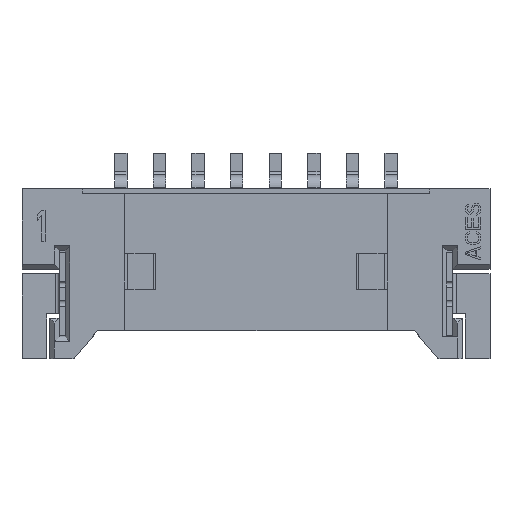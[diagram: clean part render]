
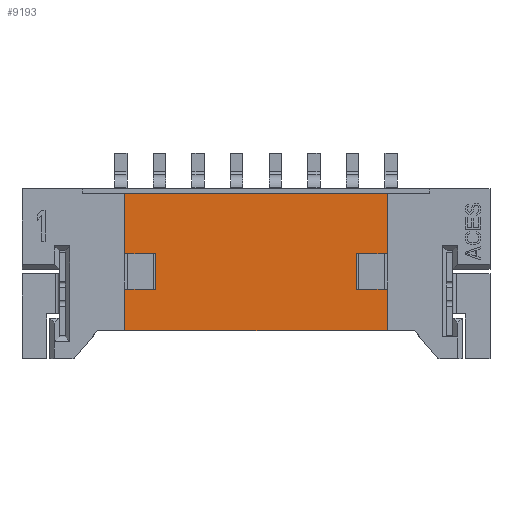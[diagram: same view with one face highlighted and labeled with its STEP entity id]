
A CAD part, top view. The second image highlights one B-rep face of the part: STEP entity #9193.
In plain terms, the highlighted planar face has unit normal (0, 0, 1).
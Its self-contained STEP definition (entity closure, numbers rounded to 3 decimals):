
#453=DIRECTION('',(0.,-1.,0.));
#454=VECTOR('',#453,1.95);
#455=CARTESIAN_POINT('',(3.325,5.35,0.048));
#456=LINE('',#455,#454);
#473=DIRECTION('',(1.,0.,0.));
#474=VECTOR('',#473,1.);
#475=CARTESIAN_POINT('',(10.825,2.25,0.048));
#476=LINE('',#475,#474);
#477=DIRECTION('',(0.,-1.,0.));
#478=VECTOR('',#477,1.35);
#479=CARTESIAN_POINT('',(11.825,2.25,0.048));
#480=LINE('',#479,#478);
#481=DIRECTION('',(-1.,0.,0.));
#482=VECTOR('',#481,8.5);
#483=CARTESIAN_POINT('',(11.825,0.9,0.048));
#484=LINE('',#483,#482);
#485=DIRECTION('',(1.,0.,0.));
#486=VECTOR('',#485,1.);
#487=CARTESIAN_POINT('',(3.325,2.25,0.048));
#488=LINE('',#487,#486);
#489=DIRECTION('',(0.,1.,0.));
#490=VECTOR('',#489,1.15);
#491=CARTESIAN_POINT('',(4.325,2.25,0.048));
#492=LINE('',#491,#490);
#493=DIRECTION('',(-1.,0.,0.));
#494=VECTOR('',#493,1.);
#495=CARTESIAN_POINT('',(4.325,3.4,0.048));
#496=LINE('',#495,#494);
#497=DIRECTION('',(1.,0.,0.));
#498=VECTOR('',#497,8.5);
#499=CARTESIAN_POINT('',(3.325,5.35,0.048));
#500=LINE('',#499,#498);
#501=DIRECTION('',(0.,-1.,0.));
#502=VECTOR('',#501,1.95);
#503=CARTESIAN_POINT('',(11.825,5.35,0.048));
#504=LINE('',#503,#502);
#505=DIRECTION('',(-1.,0.,0.));
#506=VECTOR('',#505,1.);
#507=CARTESIAN_POINT('',(11.825,3.4,0.048));
#508=LINE('',#507,#506);
#509=DIRECTION('',(0.,-1.,0.));
#510=VECTOR('',#509,1.15);
#511=CARTESIAN_POINT('',(10.825,3.4,0.048));
#512=LINE('',#511,#510);
#533=DIRECTION('',(0.,-1.,0.));
#534=VECTOR('',#533,1.35);
#535=CARTESIAN_POINT('',(3.325,2.25,0.048));
#536=LINE('',#535,#534);
#6937=CARTESIAN_POINT('',(10.825,3.4,0.048));
#6938=VERTEX_POINT('',#6937);
#6939=CARTESIAN_POINT('',(11.825,3.4,0.048));
#6940=VERTEX_POINT('',#6939);
#6957=CARTESIAN_POINT('',(3.325,0.9,0.048));
#6958=VERTEX_POINT('',#6957);
#6959=CARTESIAN_POINT('',(11.825,0.9,0.048));
#6960=VERTEX_POINT('',#6959);
#7003=CARTESIAN_POINT('',(4.325,2.25,0.048));
#7004=VERTEX_POINT('',#7003);
#7005=CARTESIAN_POINT('',(3.325,2.25,0.048));
#7006=VERTEX_POINT('',#7005);
#7007=CARTESIAN_POINT('',(4.325,3.4,0.048));
#7008=VERTEX_POINT('',#7007);
#7009=CARTESIAN_POINT('',(3.325,3.4,0.048));
#7010=VERTEX_POINT('',#7009);
#7011=CARTESIAN_POINT('',(3.325,5.35,0.048));
#7012=VERTEX_POINT('',#7011);
#7013=CARTESIAN_POINT('',(11.825,5.35,0.048));
#7014=VERTEX_POINT('',#7013);
#7019=CARTESIAN_POINT('',(10.825,2.25,0.048));
#7020=CARTESIAN_POINT('',(11.825,2.25,0.048));
#7021=VERTEX_POINT('',#7019);
#7022=VERTEX_POINT('',#7020);
#9170=CARTESIAN_POINT('',(7.575,3.125,0.048));
#9171=DIRECTION('',(0.,0.,1.));
#9172=DIRECTION('',(1.,0.,0.));
#9173=AXIS2_PLACEMENT_3D('',#9170,#9171,#9172);
#9174=PLANE('',#9173);
#9176=ORIENTED_EDGE('',*,*,#9175,.T.);
#9178=ORIENTED_EDGE('',*,*,#9177,.T.);
#9179=ORIENTED_EDGE('',*,*,#8995,.T.);
#9181=ORIENTED_EDGE('',*,*,#9180,.F.);
#9182=ORIENTED_EDGE('',*,*,#9084,.T.);
#9183=ORIENTED_EDGE('',*,*,#9100,.T.);
#9184=ORIENTED_EDGE('',*,*,#9117,.T.);
#9185=ORIENTED_EDGE('',*,*,#9131,.F.);
#9186=ORIENTED_EDGE('',*,*,#9144,.T.);
#9187=ORIENTED_EDGE('',*,*,#9163,.T.);
#9188=ORIENTED_EDGE('',*,*,#8945,.T.);
#9190=ORIENTED_EDGE('',*,*,#9189,.T.);
#9191=EDGE_LOOP('',(#9176,#9178,#9179,#9181,#9182,#9183,#9184,#9185,#9186,#9187,
#9188,#9190));
#9192=FACE_OUTER_BOUND('',#9191,.F.);
#9193=ADVANCED_FACE('',(#9192),#9174,.T.);
#8945=EDGE_CURVE('',#6940,#6938,#508,.T.);
#8995=EDGE_CURVE('',#6960,#6958,#484,.T.);
#9084=EDGE_CURVE('',#7006,#7004,#488,.T.);
#9100=EDGE_CURVE('',#7004,#7008,#492,.T.);
#9117=EDGE_CURVE('',#7008,#7010,#496,.T.);
#9131=EDGE_CURVE('',#7012,#7010,#456,.T.);
#9144=EDGE_CURVE('',#7012,#7014,#500,.T.);
#9163=EDGE_CURVE('',#7014,#6940,#504,.T.);
#9175=EDGE_CURVE('',#7021,#7022,#476,.T.);
#9177=EDGE_CURVE('',#7022,#6960,#480,.T.);
#9180=EDGE_CURVE('',#7006,#6958,#536,.T.);
#9189=EDGE_CURVE('',#6938,#7021,#512,.T.);
